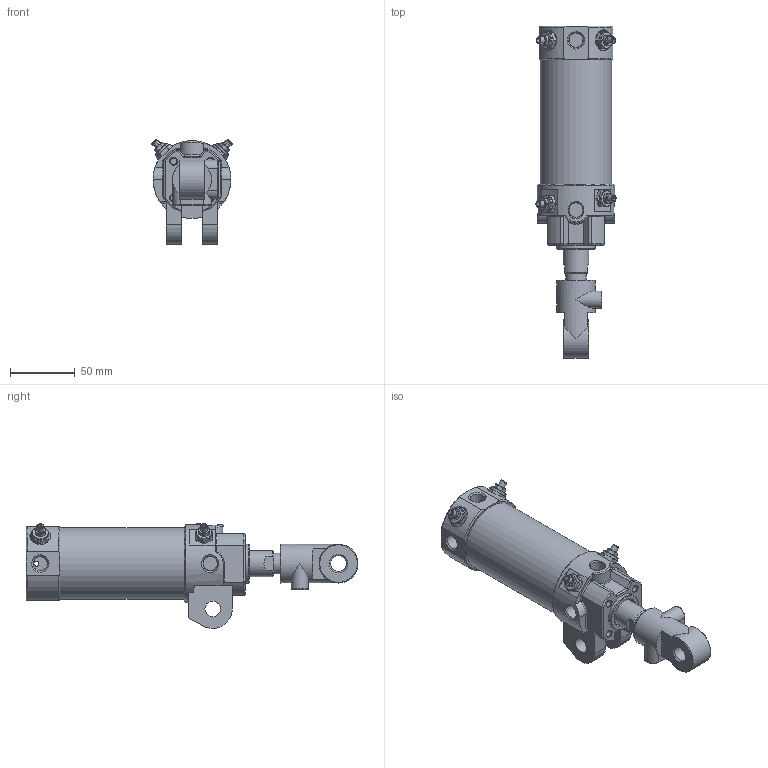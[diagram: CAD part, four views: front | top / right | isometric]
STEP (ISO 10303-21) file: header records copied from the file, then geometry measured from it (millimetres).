
FILE_DESCRIPTION((''),'2;1');
FILE_NAME('I:\3D電子目錄\氣缸\DCK\DCK\DCK-1B-50x50-I.stp','2008-02-26T14:22:07',('Administrator'),(''),'Autodesk Inventor 11','Autodesk Inventor 11','');
FILE_SCHEMA(('AUTOMOTIVE_DESIGN { 1 0 10303 214 1 1 1 1 }'));
Length unit declared in the file: millimetre
Products named in the file (6): DCK-1B-50-I; DCK-1A-50-I; 緩衝針; 緩衝針-1; 緩衝針-201; 緩衝針-3
Assembly tree (8 placements, depth 3):
  DCK-1B-50-I
    DCK-1A-50-I
    緩衝針  x4
      緩衝針-1
      緩衝針-201
      緩衝針-3
Bounding box: 61.76 x 256 x 80.87 mm (x, y, z)
Volume: 266291.8 mm3; surface area: 101444.7 mm2
Topology: 16 solids, 16 shells, 617 faces, 1375 edges, 859 vertices
Faces by surface type: plane 227, cylinder 180, cone 141, torus 35, bspline 34
Full cylindrical faces by diameter (mm): 2 x2, 3 x4, 3.8 x2, 4 x6, 4.6 x4, 5 x8, 5.1 x4, 5.2 x12, 5.5 x4, 7.25 x1, 7.9 x4, 8 x2, 10.3 x1, 11.3 x1, 12 x5, 12.8 x4, 16 x3, 20 x1, 21 x1, 22 x2, 23 x1, 24.7 x1, 26 x1, 27 x1, 28 x1, 29 x1, 30 x3, 33 x1, 49.5 x1, 52 x2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
Entity records: 12811 total; most frequent: CARTESIAN_POINT 5086, DIRECTION 1580, ORIENTED_EDGE 1388, EDGE_CURVE 694, AXIS2_PLACEMENT_3D 690, EDGE_LOOP 570, VERTEX_POINT 506, FACE_OUTER_BOUND 368
